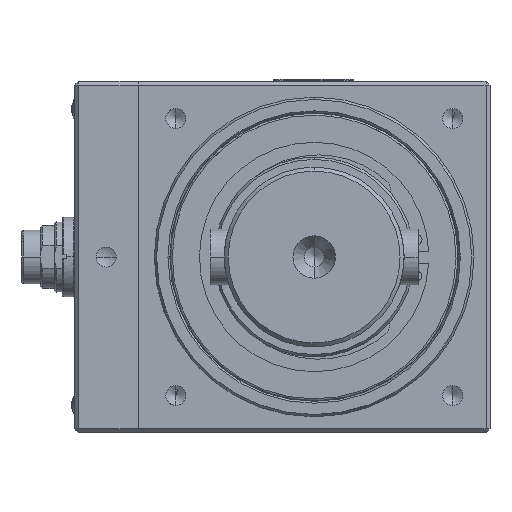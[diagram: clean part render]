
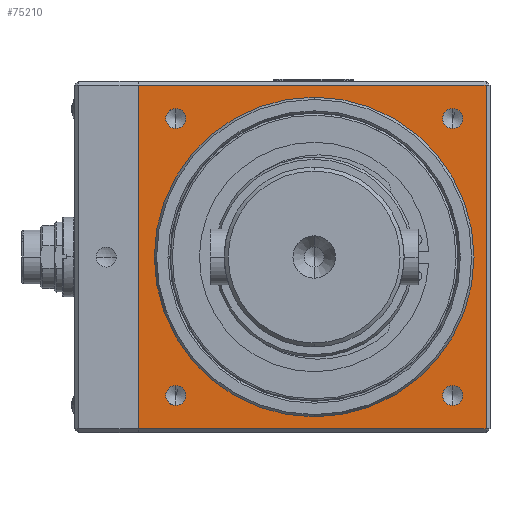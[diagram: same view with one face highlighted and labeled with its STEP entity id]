
A CAD part, left-side view. The second image highlights one B-rep face of the part: STEP entity #75210.
In plain terms, the highlighted planar face has unit normal (-1, 0, 0).
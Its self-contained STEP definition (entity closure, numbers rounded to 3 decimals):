
#3162 = DIRECTION ( 'NONE',  ( 0., 0., 1. ) ) ;
#3434 = DIRECTION ( 'NONE',  ( -1., 0., 0. ) ) ;
#5342 = DIRECTION ( 'NONE',  ( 0., 0., 1. ) ) ;
#5876 = CARTESIAN_POINT ( 'NONE',  ( -84., 0., 0. ) ) ;
#7392 = DIRECTION ( 'NONE',  ( 0., 0., 1. ) ) ;
#8207 = CARTESIAN_POINT ( 'NONE',  ( -84., 0., 0. ) ) ;
#8552 = VERTEX_POINT ( 'NONE', #76009 ) ;
#8670 = CIRCLE ( 'NONE', #37028, 2.5 ) ;
#9232 = ORIENTED_EDGE ( 'NONE', *, *, #83784, .F. ) ;
#10454 = EDGE_LOOP ( 'NONE', ( #97381, #89232 ) ) ;
#10518 = CARTESIAN_POINT ( 'NONE',  ( -84., 0., -40. ) ) ;
#11000 = CARTESIAN_POINT ( 'NONE',  ( -84., -34.648, 32.148 ) ) ;
#11057 = CARTESIAN_POINT ( 'NONE',  ( -84., 34.648, 37.148 ) ) ;
#11269 = LINE ( 'NONE', #52534, #73754 ) ;
#14016 = DIRECTION ( 'NONE',  ( 0., 0., -1. ) ) ;
#14352 = DIRECTION ( 'NONE',  ( 0., -1., 0. ) ) ;
#15031 = AXIS2_PLACEMENT_3D ( 'NONE', #8207, #65264, #16407 ) ;
#16407 = DIRECTION ( 'NONE',  ( 0., 0., -1. ) ) ;
#16851 = EDGE_CURVE ( 'NONE', #39034, #42707, #72020, .T. ) ;
#17370 = FACE_BOUND ( 'NONE', #41954, .T. ) ;
#17778 = LINE ( 'NONE', #26379, #61167 ) ;
#18057 = CARTESIAN_POINT ( 'NONE',  ( -84., -44., 44. ) ) ;
#21532 = DIRECTION ( 'NONE',  ( -1., 0., 0. ) ) ;
#22469 = VECTOR ( 'NONE', #89623, 1000. ) ;
#22642 = EDGE_CURVE ( 'NONE', #60633, #75298, #96917, .T. ) ;
#23021 = CARTESIAN_POINT ( 'NONE',  ( -84., 34.648, -32.148 ) ) ;
#23556 = EDGE_CURVE ( 'NONE', #56470, #70876, #8670, .T. ) ;
#26319 = DIRECTION ( 'NONE',  ( 0., 0., -1. ) ) ;
#26379 = CARTESIAN_POINT ( 'NONE',  ( -84., 44., 44. ) ) ;
#27843 = CARTESIAN_POINT ( 'NONE',  ( -84., 34.648, 34.648 ) ) ;
#27945 = EDGE_CURVE ( 'NONE', #8552, #51937, #51664, .T. ) ;
#29362 = CARTESIAN_POINT ( 'NONE',  ( -84., 34.648, -37.148 ) ) ;
#36007 = DIRECTION ( 'NONE',  ( 0., 0., 1. ) ) ;
#36776 = CIRCLE ( 'NONE', #60726, 2.5 ) ;
#36796 = VECTOR ( 'NONE', #14352, 1000. ) ;
#37028 = AXIS2_PLACEMENT_3D ( 'NONE', #100651, #51988, #3162 ) ;
#37735 = DIRECTION ( 'NONE',  ( -1., 0., 0. ) ) ;
#39034 = VERTEX_POINT ( 'NONE', #88961 ) ;
#39045 = FACE_BOUND ( 'NONE', #72964, .T. ) ;
#41954 = EDGE_LOOP ( 'NONE', ( #50482, #90039 ) ) ;
#42584 = CARTESIAN_POINT ( 'NONE',  ( -84., -34.648, 34.648 ) ) ;
#42707 = VERTEX_POINT ( 'NONE', #11057 ) ;
#44515 = CARTESIAN_POINT ( 'NONE',  ( -84., -34.648, -32.148 ) ) ;
#44868 = AXIS2_PLACEMENT_3D ( 'NONE', #102854, #54157, #5342 ) ;
#45106 = EDGE_LOOP ( 'NONE', ( #68443, #84284 ) ) ;
#45129 = VERTEX_POINT ( 'NONE', #77994 ) ;
#47927 = EDGE_CURVE ( 'NONE', #54153, #56062, #80128, .T. ) ;
#50482 = ORIENTED_EDGE ( 'NONE', *, *, #89651, .F. ) ;
#50834 = DIRECTION ( 'NONE',  ( 0., 0., 1. ) ) ;
#51664 = CIRCLE ( 'NONE', #74605, 2.5 ) ;
#51937 = VERTEX_POINT ( 'NONE', #11000 ) ;
#51988 = DIRECTION ( 'NONE',  ( -1., 0., 0. ) ) ;
#52024 = ORIENTED_EDGE ( 'NONE', *, *, #91440, .T. ) ;
#52249 = CARTESIAN_POINT ( 'NONE',  ( -84., 34.648, -34.648 ) ) ;
#52282 = EDGE_CURVE ( 'NONE', #70876, #56470, #80090, .T. ) ;
#52534 = CARTESIAN_POINT ( 'NONE',  ( -84., -43., 44. ) ) ;
#54153 = VERTEX_POINT ( 'NONE', #29362 ) ;
#54157 = DIRECTION ( 'NONE',  ( -1., 0., 0. ) ) ;
#56062 = VERTEX_POINT ( 'NONE', #23021 ) ;
#56127 = CIRCLE ( 'NONE', #44868, 2.5 ) ;
#56263 = DIRECTION ( 'NONE',  ( -1., 0., 0. ) ) ;
#56339 = EDGE_LOOP ( 'NONE', ( #9232, #103195, #61864, #52024 ) ) ;
#56352 = AXIS2_PLACEMENT_3D ( 'NONE', #18057, #75007, #26319 ) ;
#56470 = VERTEX_POINT ( 'NONE', #101572 ) ;
#56661 = EDGE_CURVE ( 'NONE', #75298, #60633, #66931, .T. ) ;
#58190 = FACE_BOUND ( 'NONE', #10454, .T. ) ;
#58458 = LINE ( 'NONE', #71371, #36796 ) ;
#59411 = ORIENTED_EDGE ( 'NONE', *, *, #72046, .F. ) ;
#60432 = DIRECTION ( 'NONE',  ( 0., 0., 1. ) ) ;
#60633 = VERTEX_POINT ( 'NONE', #87980 ) ;
#60726 = AXIS2_PLACEMENT_3D ( 'NONE', #52249, #3434, #60432 ) ;
#60756 = FACE_OUTER_BOUND ( 'NONE', #56339, .T. ) ;
#61167 = VECTOR ( 'NONE', #83187, 1000. ) ;
#61864 = ORIENTED_EDGE ( 'NONE', *, *, #78549, .T. ) ;
#62863 = DIRECTION ( 'NONE',  ( -1., 0., 0. ) ) ;
#65264 = DIRECTION ( 'NONE',  ( -1., 0., 0. ) ) ;
#66931 = CIRCLE ( 'NONE', #15031, 40. ) ;
#68443 = ORIENTED_EDGE ( 'NONE', *, *, #27945, .F. ) ;
#70341 = CARTESIAN_POINT ( 'NONE',  ( -84., 34.648, -34.648 ) ) ;
#70876 = VERTEX_POINT ( 'NONE', #44515 ) ;
#71371 = CARTESIAN_POINT ( 'NONE',  ( -84., -44., -43. ) ) ;
#72020 = CIRCLE ( 'NONE', #80470, 2.5 ) ;
#72046 = EDGE_CURVE ( 'NONE', #56062, #54153, #36776, .T. ) ;
#72964 = EDGE_LOOP ( 'NONE', ( #76080, #73447 ) ) ;
#73036 = ORIENTED_EDGE ( 'NONE', *, *, #47927, .F. ) ;
#73447 = ORIENTED_EDGE ( 'NONE', *, *, #23556, .F. ) ;
#73754 = VECTOR ( 'NONE', #92951, 1000. ) ;
#74605 = AXIS2_PLACEMENT_3D ( 'NONE', #42584, #99471, #50834 ) ;
#75007 = DIRECTION ( 'NONE',  ( 1., 0., 0. ) ) ;
#75210 = ADVANCED_FACE ( 'NONE', ( #79777, #101431, #17370, #39045, #60756, #58190 ), #82789, .F. ) ;
#75298 = VERTEX_POINT ( 'NONE', #10518 ) ;
#75998 = AXIS2_PLACEMENT_3D ( 'NONE', #70341, #21532, #78467 ) ;
#76009 = CARTESIAN_POINT ( 'NONE',  ( -84., -34.648, 37.148 ) ) ;
#76080 = ORIENTED_EDGE ( 'NONE', *, *, #52282, .F. ) ;
#77473 = EDGE_LOOP ( 'NONE', ( #59411, #73036 ) ) ;
#77994 = CARTESIAN_POINT ( 'NONE',  ( -84., 44., 43. ) ) ;
#78221 = EDGE_CURVE ( 'NONE', #51937, #8552, #56127, .T. ) ;
#78467 = DIRECTION ( 'NONE',  ( 0., 0., 1. ) ) ;
#78549 = EDGE_CURVE ( 'NONE', #84629, #104244, #11269, .T. ) ;
#78667 = AXIS2_PLACEMENT_3D ( 'NONE', #104916, #56263, #7392 ) ;
#79777 = FACE_BOUND ( 'NONE', #77473, .T. ) ;
#80090 = CIRCLE ( 'NONE', #78667, 2.5 ) ;
#80128 = CIRCLE ( 'NONE', #75998, 2.5 ) ;
#80470 = AXIS2_PLACEMENT_3D ( 'NONE', #86426, #37735, #94581 ) ;
#81483 = CARTESIAN_POINT ( 'NONE',  ( -84., 44., 43. ) ) ;
#82292 = CIRCLE ( 'NONE', #103419, 2.5 ) ;
#82303 = VERTEX_POINT ( 'NONE', #89153 ) ;
#82789 = PLANE ( 'NONE',  #56352 ) ;
#83187 = DIRECTION ( 'NONE',  ( 0., 0., 1. ) ) ;
#83784 = EDGE_CURVE ( 'NONE', #82303, #45129, #17778, .T. ) ;
#84284 = ORIENTED_EDGE ( 'NONE', *, *, #78221, .F. ) ;
#84629 = VERTEX_POINT ( 'NONE', #94740 ) ;
#84677 = DIRECTION ( 'NONE',  ( -1., 0., 0. ) ) ;
#84813 = LINE ( 'NONE', #81483, #22469 ) ;
#85297 = CARTESIAN_POINT ( 'NONE',  ( -84., -43., 43. ) ) ;
#86426 = CARTESIAN_POINT ( 'NONE',  ( -84., 34.648, 34.648 ) ) ;
#87980 = CARTESIAN_POINT ( 'NONE',  ( -84., 0., 40. ) ) ;
#88961 = CARTESIAN_POINT ( 'NONE',  ( -84., 34.648, 32.148 ) ) ;
#89153 = CARTESIAN_POINT ( 'NONE',  ( -84., 44., -43. ) ) ;
#89232 = ORIENTED_EDGE ( 'NONE', *, *, #22642, .F. ) ;
#89623 = DIRECTION ( 'NONE',  ( 0., 1., 0. ) ) ;
#89651 = EDGE_CURVE ( 'NONE', #42707, #39034, #82292, .T. ) ;
#90039 = ORIENTED_EDGE ( 'NONE', *, *, #16851, .F. ) ;
#90829 = EDGE_CURVE ( 'NONE', #82303, #84629, #58458, .T. ) ;
#91440 = EDGE_CURVE ( 'NONE', #104244, #45129, #84813, .T. ) ;
#92951 = DIRECTION ( 'NONE',  ( 0., 0., 1. ) ) ;
#94581 = DIRECTION ( 'NONE',  ( 0., 0., 1. ) ) ;
#94740 = CARTESIAN_POINT ( 'NONE',  ( -84., -43., -43. ) ) ;
#96917 = CIRCLE ( 'NONE', #103715, 40. ) ;
#97381 = ORIENTED_EDGE ( 'NONE', *, *, #56661, .F. ) ;
#99471 = DIRECTION ( 'NONE',  ( -1., 0., 0. ) ) ;
#100651 = CARTESIAN_POINT ( 'NONE',  ( -84., -34.648, -34.648 ) ) ;
#101431 = FACE_BOUND ( 'NONE', #45106, .T. ) ;
#101572 = CARTESIAN_POINT ( 'NONE',  ( -84., -34.648, -37.148 ) ) ;
#102854 = CARTESIAN_POINT ( 'NONE',  ( -84., -34.648, 34.648 ) ) ;
#103195 = ORIENTED_EDGE ( 'NONE', *, *, #90829, .T. ) ;
#103419 = AXIS2_PLACEMENT_3D ( 'NONE', #27843, #84677, #36007 ) ;
#103715 = AXIS2_PLACEMENT_3D ( 'NONE', #5876, #62863, #14016 ) ;
#104244 = VERTEX_POINT ( 'NONE', #85297 ) ;
#104916 = CARTESIAN_POINT ( 'NONE',  ( -84., -34.648, -34.648 ) ) ;
